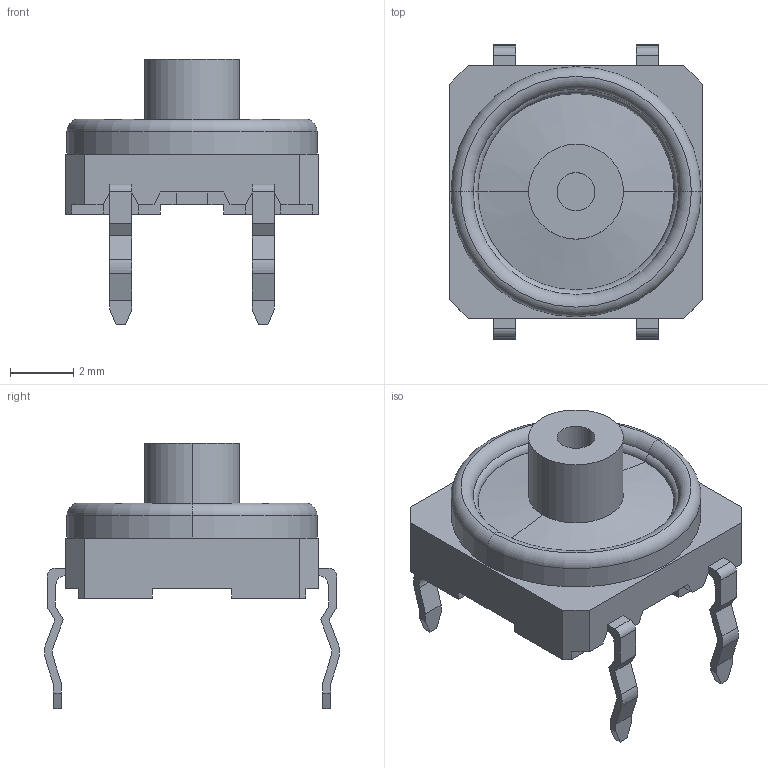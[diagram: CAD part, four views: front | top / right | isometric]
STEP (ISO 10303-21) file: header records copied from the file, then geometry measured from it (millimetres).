
FILE_DESCRIPTION((''),'2;1');
FILE_NAME('TR8H2_ASM','2017-10-13T',('aihua'),(''),'PRO/ENGINEER BY PARAMETRIC TECHNOLOGY CORPORATION, 2009440','PRO/ENGINEER BY PARAMETRIC TECHNOLOGY CORPORATION, 2009440','');
FILE_SCHEMA(('AUTOMOTIVE_DESIGN_CC2 { 1 2 10303 214 -1 1 5 2 }'));
Length unit declared in the file: millimetre
Products named in the file (1): TR8H2_ASM
Bounding box: 8 x 9.32 x 8.4 mm (x, y, z)
Volume: 137.5 mm3; surface area: 451.6 mm2
Topology: 1 solids, 3 shells, 244 faces, 666 edges, 432 vertices
Faces by surface type: plane 176, cylinder 40, cone 18, torus 6, sphere 4
Entity records: 9315 total; most frequent: CARTESIAN_POINT 1389, ORIENTED_EDGE 1332, DIRECTION 1288, EDGE_CURVE 666, VECTOR 508, LINE 508, VERTEX_POINT 432, AXIS2_PLACEMENT_3D 390
